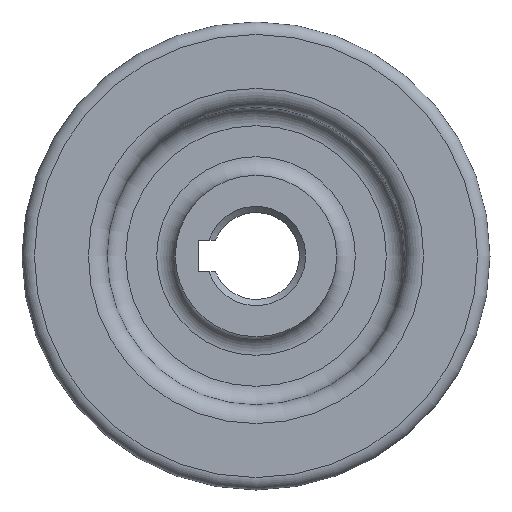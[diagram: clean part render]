
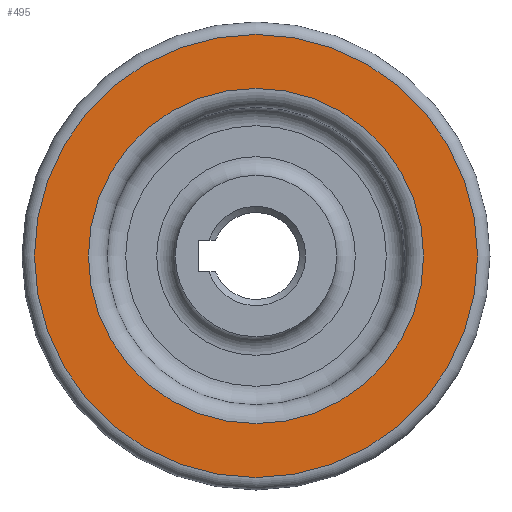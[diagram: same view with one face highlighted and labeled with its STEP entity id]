
A CAD part, left-side view. The second image highlights one B-rep face of the part: STEP entity #495.
In plain terms, the highlighted planar face has unit normal (-1, 0, 0).
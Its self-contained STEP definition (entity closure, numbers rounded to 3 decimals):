
#36=FACE_BOUND('',#130,.T.);
#79=PLANE('',#568);
#95=FACE_OUTER_BOUND('',#129,.T.);
#129=EDGE_LOOP('',(#392));
#130=EDGE_LOOP('',(#393));
#166=CIRCLE('',#564,35.7);
#169=CIRCLE('',#569,27.);
#229=VERTEX_POINT('',#880);
#232=VERTEX_POINT('',#890);
#287=EDGE_CURVE('',#229,#229,#166,.T.);
#291=EDGE_CURVE('',#232,#232,#169,.T.);
#392=ORIENTED_EDGE('',*,*,#287,.F.);
#393=ORIENTED_EDGE('',*,*,#291,.F.);
#495=ADVANCED_FACE('',(#95,#36),#79,.T.);
#564=AXIS2_PLACEMENT_3D('',#882,#689,#690);
#568=AXIS2_PLACEMENT_3D('',#889,#698,#699);
#569=AXIS2_PLACEMENT_3D('',#891,#700,#701);
#689=DIRECTION('center_axis',(1.,0.,0.));
#690=DIRECTION('ref_axis',(0.,-1.,0.));
#698=DIRECTION('center_axis',(-1.,0.,0.));
#699=DIRECTION('ref_axis',(0.,0.,1.));
#700=DIRECTION('center_axis',(-1.,0.,0.));
#701=DIRECTION('ref_axis',(0.,0.,1.));
#880=CARTESIAN_POINT('',(-9.5,0.,35.7));
#882=CARTESIAN_POINT('Origin',(-9.5,0.,0.));
#889=CARTESIAN_POINT('Origin',(-9.5,18.85,0.));
#890=CARTESIAN_POINT('',(-9.5,0.,27.));
#891=CARTESIAN_POINT('Origin',(-9.5,0.,0.));
